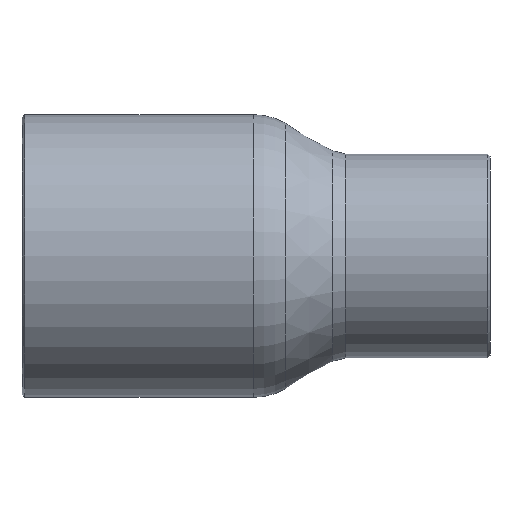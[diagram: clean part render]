
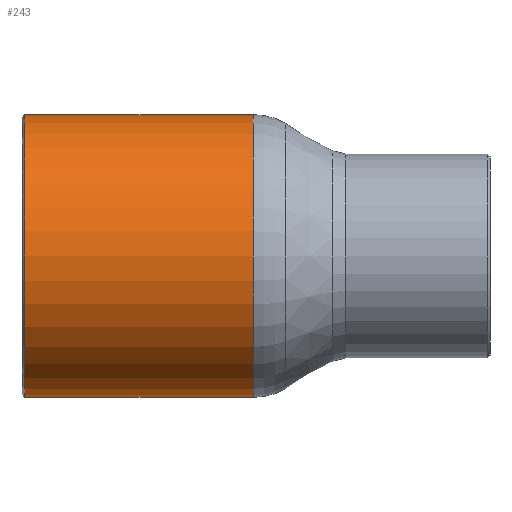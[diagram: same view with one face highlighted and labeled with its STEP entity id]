
A CAD part, front view. The second image highlights one B-rep face of the part: STEP entity #243.
In plain terms, the highlighted cylindrical face has radius 11.113 mm (diameter 22.225 mm), a full revolution.
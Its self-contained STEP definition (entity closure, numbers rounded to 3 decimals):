
#212=CARTESIAN_POINT('',(-27.2,11.113,0.));
#213=VERTEX_POINT('',#212);
#214=CARTESIAN_POINT('',(-27.2,0.0,0.0));
#215=DIRECTION('',(-1.0,0.0,0.0));
#216=DIRECTION('',(0.0,-1.0,0.0));
#217=AXIS2_PLACEMENT_3D('',#214,#215,#216);
#218=CIRCLE('',#217,11.113);
#219=EDGE_CURVE('',#213,#213,#218,.T.);
#224=CARTESIAN_POINT('',(-18.3,0.0,0.0));
#225=DIRECTION('',(1.0,0.0,0.0));
#226=DIRECTION('',(0.0,1.0,0.0));
#227=AXIS2_PLACEMENT_3D('',#224,#225,#226);
#228=CYLINDRICAL_SURFACE('',#227,11.113);
#229=CARTESIAN_POINT('',(-9.2,11.113,0.0));
#230=VERTEX_POINT('',#229);
#231=CARTESIAN_POINT('',(-9.2,0.0,0.0));
#232=DIRECTION('',(1.0,0.0,0.0));
#233=DIRECTION('',(0.0,1.0,0.0));
#234=AXIS2_PLACEMENT_3D('',#231,#232,#233);
#235=CIRCLE('',#234,11.113);
#236=EDGE_CURVE('',#230,#230,#235,.T.);
#237=ORIENTED_EDGE('',*,*,#236,.F.);
#238=EDGE_LOOP('',(#237));
#239=FACE_OUTER_BOUND('',#238,.T.);
#240=ORIENTED_EDGE('',*,*,#219,.F.);
#241=EDGE_LOOP('',(#240));
#242=FACE_BOUND('',#241,.T.);
#243=ADVANCED_FACE('',(#239,#242),#228,.T.);
